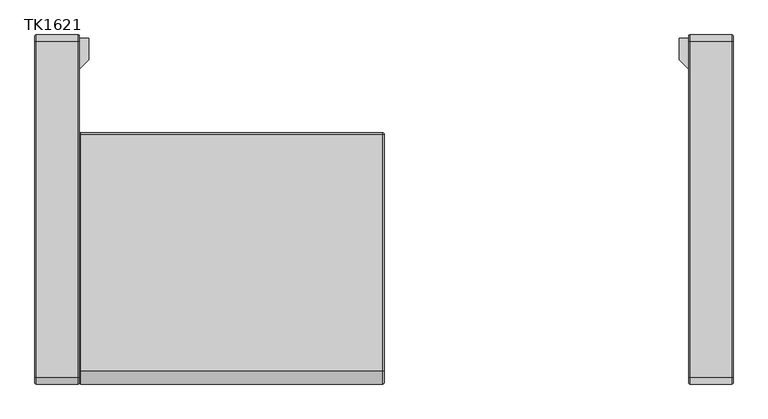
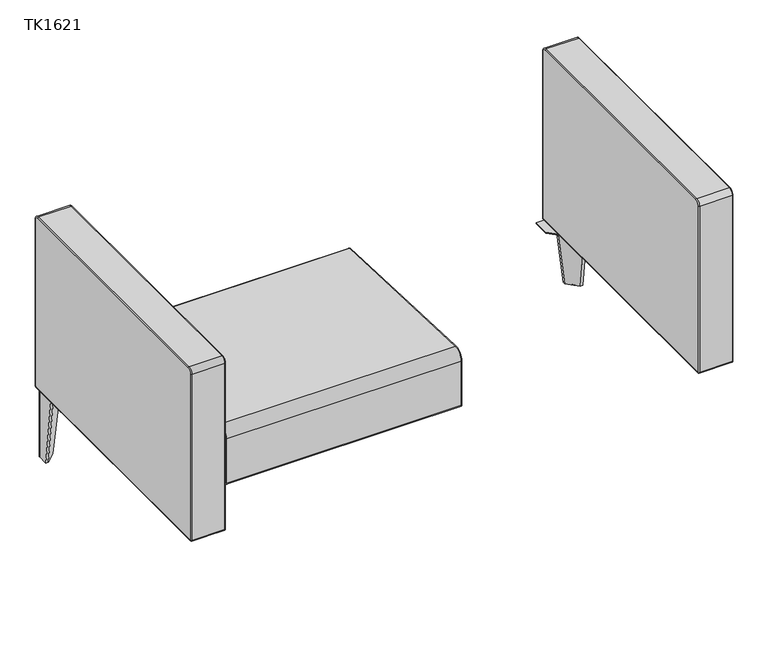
"""IFC4 building model written with IfcOpenShell, lengths in millimetres: furniture geometry, JSI-Teekan-Two_Seat_Lounge : TK1621."""

from ifc_helpers import new_model, si_unit, point, frame, origin, place, context, project, spatial, polyline, circle_curve, ellipse_curve, trimmed, outline, extrude, source, transform, mapped, element, save
from ifc_brep_helpers import plane_surface, cylinder_surface, revolved_surface, spline_surface, advanced_brep


def tk1621_4f83ef63(model_context):
    return source(origin(), model_context, "Body", "SolidModel", [
        advanced_brep(
        [(682.1513333, 340.133006, 3.1926572), (682.1513333, 340.133006, 4.9994321), (682.1513333, 325.6863843, 4.9994321), (682.1513333, 325.6863843, 3.1926572), (682.1513333, 336.9403488, 0.0), (682.1513333, 328.8790415, 0.0), (682.1513333, 332.9096951, 0.0), (682.1513333, 332.9096951, 4.9994321)],
        [
            (0, 1),
            (1, 2, circle_curve(frame((682.1513333, 332.9096951, 4.9994321), z_axis=(0.0, 0.0, -1.0), x_axis=(0.0, -1.0, 0.0)), 7.2233108)),
            (2, 3),
            (3, 0, circle_curve(frame((682.1513333, 332.9096951, 3.1926572), z_axis=(0.0, 0.0, 1.0), x_axis=(0.0, -1.0, 0.0)), 7.2233108)),
            (2, 1, circle_curve(frame((682.1513333, 332.9096951, 4.9994321), z_axis=(0.0, 0.0, -1.0), x_axis=(0.0, -1.0, 0.0)), 7.2233108)),
            (0, 3, circle_curve(frame((682.1513333, 332.9096951, 3.1926572), z_axis=(0.0, 0.0, 1.0), x_axis=(0.0, -1.0, 0.0)), 7.2233108)),
            (4, 0, circle_curve(frame((682.1513333, 336.9403488, 3.1926572), z_axis=(1.0, 0.0, 0.0), x_axis=(0.0, 1.0, 0.0)), 3.1926572)),
            (3, 5, circle_curve(frame((682.1513333, 328.8790415, 3.1926572), z_axis=(1.0, 0.0, 0.0), x_axis=(0.0, -1.0, 0.0)), 3.1926572)),
            (5, 4, circle_curve(frame((682.1513333, 332.9096951, 0.0), z_axis=(0.0, 0.0, 1.0), x_axis=(0.0, -1.0, 0.0)), 4.0306536)),
            (4, 5, circle_curve(frame((682.1513333, 332.9096951, 0.0), z_axis=(0.0, 0.0, 1.0), x_axis=(0.0, -1.0, 0.0)), 4.0306536)),
            (6, 4),
            (5, 6),
            (1, 7),
            (7, 2),
        ],
        [
            cylinder_surface(frame((682.1513333, 332.9096951, 14.2077797), z_axis=(0.0, 0.0, -1.0), x_axis=(0.0, -1.0, 0.0)), 7.2233108),
            revolved_surface(trimmed(ellipse_curve(frame((682.1513333, 328.8790415, 3.1926572), z_axis=(1.0, 0.0, 0.0), x_axis=(0.0, -1.0, 0.0)), 3.1926572, 3.1926572), [point((682.1513333, 325.6863843, 3.1926572))], [point((682.1513333, 328.8790415, 0.0))], True, "CARTESIAN"), (682.1513333, 332.9096951, 14.2077797), (0.0, 0.0, -1.0)),
            plane_surface(frame((682.1513333, 332.9096951, 0.0), z_axis=(0.0, 0.0, -1.0), x_axis=(0.0, -1.0, 0.0))),
            plane_surface(frame((682.1513333, 332.9096951, 4.9994321), z_axis=(0.0, 0.0, 1.0), x_axis=(0.0, -1.0, 0.0))),
        ],
        [
            (0, [[1, 2, 3, 4]]),
            (0, [[-3, 5, -1, 6]]),
            (1, [[7, -4, 8, 9]]),
            (1, [[-8, -6, -7, 10]]),
            (2, [[11, -9, 12]]),
            (2, [[-12, -10, -11]]),
            (3, [[13, 14, -2]]),
            (3, [[-14, -13, -5]]),
        ],
    ),
        advanced_brep(
        [(638.175, 336.5496631, 189.4817329), (685.8, 288.9246631, 189.4817329), (692.15, 288.9246631, 189.4817329), (692.15, 339.725, 189.4817329), (688.975, 342.9, 189.4817329), (638.175, 342.9, 189.4817329), (660.4, 336.5496631, 4.9994321), (660.4, 342.9, 4.9994321), (688.9469923, 342.9, 4.9994321), (692.15, 339.6969923, 4.9994321), (692.15, 311.1496631, 4.9994321), (685.8, 311.1496631, 4.9994321)],
        [
            (0, 1),
            (1, 2),
            (2, 3),
            (3, 4, circle_curve(frame((688.975, 339.725, 189.4817329), z_axis=(0.0, 0.0, 1.0), x_axis=(-1.0, 0.0, 0.0)), 3.175)),
            (4, 5),
            (5, 0),
            (6, 7),
            (7, 8),
            (8, 9, circle_curve(frame((688.9469923, 339.6969923, 4.9994321), z_axis=(0.0, 0.0, -1.0), x_axis=(-1.0, 0.0, 0.0)), 3.2030077)),
            (9, 10),
            (10, 11),
            (11, 6),
            (6, 0),
            (5, 7),
            (4, 8),
            (3, 9),
            (2, 10),
            (1, 11),
        ],
        [
            plane_surface(frame((672.5708333, 323.3206649, 189.4817329), z_axis=(0.0, 0.0, 1.0), x_axis=(-1.0, 0.0, 0.0))),
            plane_surface(frame((679.9744987, 330.7243303, 4.9994321), z_axis=(0.0, 0.0, -1.0), x_axis=(-1.0, 0.0, 0.0))),
            plane_surface(frame((660.4, 339.7248316, 4.9994321), z_axis=(-0.9928212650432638, 0.0, -0.11960742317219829), x_axis=(0.0, 1.0, 0.0))),
            plane_surface(frame((674.6734961, 342.9, 4.9994321), z_axis=(0.0, 1.0, 0.0), x_axis=(1.0, 0.0, 0.0))),
            spline_surface(1, 2, [[(688.9469923, 342.9, 4.9994321), (692.1500000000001, 342.90000000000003, 4.9994321), (692.15, 339.6969923, 4.9994321)], [(688.975, 342.9, 189.4817329), (692.15, 342.90000000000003, 189.4817329), (692.15, 339.725, 189.4817329)]], [2, 2], [3, 3], [0.0, 1.0], [0.0, 1.0], weights=[[1.0, 0.7071067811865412, 1.0], [1.0, 0.7071067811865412, 1.0]]),
            plane_surface(frame((692.15, 325.4233277, 4.9994321), z_axis=(1.0, 0.0, 0.0), x_axis=(0.0, -1.0, 0.0))),
            plane_surface(frame((688.975, 311.1496631, 4.9994321), z_axis=(0.0, -0.992821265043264, -0.11960742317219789), x_axis=(-1.0, 0.0, 0.0))),
            plane_surface(frame((673.1, 323.8496631, 4.9994321), z_axis=(-0.7045550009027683, -0.7045550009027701, -0.08487933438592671), x_axis=(-0.7071067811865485, 0.7071067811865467, 0.0))),
        ],
        [
            (0, [[1, 2, 3, 4, 5, 6]]),
            (1, [[7, 8, 9, 10, 11, 12]]),
            (2, [[13, -6, 14, -7]]),
            (3, [[-14, -5, 15, -8]]),
            (4, [[-15, -4, 16, -9]]),
            (5, [[-16, -3, 17, -10]]),
            (6, [[-17, -2, 18, -11]]),
            (7, [[-18, -1, -13, -12]]),
        ],
    ),
        extrude(outline(polyline([(590.55, 342.9), (692.15, 342.9), (692.15, 241.3), (649.2875, 241.3), (590.55, 300.0375), (590.55, 342.9)])), frame((0.0, 0.0, 189.4817329), z_axis=(0.0, 0.0, 1.0), x_axis=(1.0, 0.0, 0.0)), (0.0, 0.0, 1.0), 3.175),
        advanced_brep(
        [(-682.1513333, 340.133006, 3.1926572), (-682.1513333, 325.6863843, 3.1926572), (-682.1513333, 325.6863843, 4.9994321), (-682.1513333, 340.133006, 4.9994321), (-682.1513333, 336.9403488, 0.0), (-682.1513333, 328.8790415, 0.0), (-682.1513333, 332.9096951, 0.0), (-682.1513333, 332.9096951, 4.9994321)],
        [
            (0, 1, circle_curve(frame((-682.1513333, 332.9096951, 3.1926572), z_axis=(0.0, 0.0, 1.0), x_axis=(0.0, -1.0, 0.0)), 7.2233108)),
            (1, 2),
            (2, 3, circle_curve(frame((-682.1513333, 332.9096951, 4.9994321), z_axis=(0.0, 0.0, -1.0), x_axis=(0.0, -1.0, 0.0)), 7.2233108)),
            (3, 0),
            (1, 0, circle_curve(frame((-682.1513333, 332.9096951, 3.1926572), z_axis=(0.0, 0.0, 1.0), x_axis=(0.0, -1.0, 0.0)), 7.2233108)),
            (3, 2, circle_curve(frame((-682.1513333, 332.9096951, 4.9994321), z_axis=(0.0, 0.0, -1.0), x_axis=(0.0, -1.0, 0.0)), 7.2233108)),
            (4, 5, circle_curve(frame((-682.1513333, 332.9096951, 0.0), z_axis=(0.0, 0.0, 1.0), x_axis=(0.0, -1.0, 0.0)), 4.0306536)),
            (5, 1, circle_curve(frame((-682.1513333, 328.8790415, 3.1926572), z_axis=(-1.0, 0.0, 0.0), x_axis=(0.0, -1.0, 0.0)), 3.1926572)),
            (0, 4, circle_curve(frame((-682.1513333, 336.9403488, 3.1926572), z_axis=(-1.0, 0.0, 0.0), x_axis=(0.0, 1.0, 0.0)), 3.1926572)),
            (5, 4, circle_curve(frame((-682.1513333, 332.9096951, 0.0), z_axis=(0.0, 0.0, 1.0), x_axis=(0.0, -1.0, 0.0)), 4.0306536)),
            (6, 5),
            (4, 6),
            (2, 7),
            (7, 3),
        ],
        [
            cylinder_surface(frame((-682.1513333, 332.9096951, 14.2077797), z_axis=(0.0, 0.0, -1.0), x_axis=(0.0, -1.0, 0.0)), 7.2233108),
            revolved_surface(trimmed(ellipse_curve(frame((-682.1513333, 328.8790415, 3.1926572), z_axis=(1.0, 0.0, 0.0), x_axis=(0.0, -1.0, 0.0)), 3.1926572, 3.1926572), [point((-682.1513333, 325.6863843, 3.1926572))], [point((-682.1513333, 328.8790415, 0.0))], True, "CARTESIAN"), (-682.1513333, 332.9096951, 14.2077797), (0.0, 0.0, -1.0)),
            plane_surface(frame((-682.1513333, 332.9096951, 0.0), z_axis=(0.0, 0.0, -1.0), x_axis=(0.0, -1.0, 0.0))),
            plane_surface(frame((-682.1513333, 332.9096951, 4.9994321), z_axis=(0.0, 0.0, 1.0), x_axis=(0.0, -1.0, 0.0))),
        ],
        [
            (0, [[1, 2, 3, 4]]),
            (0, [[5, -4, 6, -2]]),
            (1, [[7, 8, -1, 9]]),
            (1, [[10, -9, -5, -8]]),
            (2, [[11, -7, 12]]),
            (2, [[-12, -10, -11]]),
            (3, [[-3, 13, 14]]),
            (3, [[-6, -14, -13]]),
        ],
    ),
        advanced_brep(
        [(-638.175, 336.5496631, 189.4817329), (-638.175, 342.9, 189.4817329), (-688.975, 342.9, 189.4817329), (-692.15, 339.725, 189.4817329), (-692.15, 288.9246631, 189.4817329), (-685.8, 288.9246631, 189.4817329), (-660.4, 336.5496631, 4.9994321), (-685.8, 311.1496631, 4.9994321), (-692.15, 311.1496631, 4.9994321), (-692.15, 339.6969923, 4.9994321), (-688.9469923, 342.9, 4.9994321), (-660.4, 342.9, 4.9994321)],
        [
            (0, 1),
            (1, 2),
            (2, 3, circle_curve(frame((-688.975, 339.725, 189.4817329), z_axis=(0.0, 0.0, 1.0), x_axis=(1.0, 0.0, 0.0)), 3.175)),
            (3, 4),
            (4, 5),
            (5, 0),
            (6, 7),
            (7, 8),
            (8, 9),
            (9, 10, circle_curve(frame((-688.9469923, 339.6969923, 4.9994321), z_axis=(0.0, 0.0, -1.0), x_axis=(1.0, 0.0, 0.0)), 3.2030077)),
            (10, 11),
            (11, 6),
            (11, 1),
            (0, 6),
            (10, 2),
            (9, 3),
            (8, 4),
            (7, 5),
        ],
        [
            plane_surface(frame((-672.5708333, 323.3206649, 189.4817329), z_axis=(0.0, 0.0, 1.0), x_axis=(1.0, 0.0, 0.0))),
            plane_surface(frame((-679.9744987, 330.7243303, 4.9994321), z_axis=(0.0, 0.0, -1.0), x_axis=(1.0, 0.0, 0.0))),
            plane_surface(frame((-660.4, 339.7248316, 4.9994321), z_axis=(0.9928212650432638, 0.0, -0.11960742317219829), x_axis=(0.0, 1.0, 0.0))),
            plane_surface(frame((-674.6734961, 342.9, 4.9994321), z_axis=(0.0, 1.0, 0.0), x_axis=(-1.0, 0.0, 0.0))),
            spline_surface(2, 1, [[(-688.9469923, 342.9, 4.9994321), (-688.975, 342.9, 189.4817329)], [(-692.1500000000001, 342.90000000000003, 4.9994321), (-692.15, 342.90000000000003, 189.4817329)], [(-692.15, 339.6969923, 4.9994321), (-692.15, 339.725, 189.4817329)]], [3, 3], [2, 2], [0.0, 1.0], [0.0, 1.0], weights=[[1.0, 1.0], [0.7071067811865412, 0.7071067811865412], [1.0, 1.0]]),
            plane_surface(frame((-692.15, 325.4233277, 4.9994321), z_axis=(-1.0, 0.0, 0.0), x_axis=(0.0, -1.0, 0.0))),
            plane_surface(frame((-688.975, 311.1496631, 4.9994321), z_axis=(0.0, -0.992821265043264, -0.11960742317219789), x_axis=(1.0, 0.0, 0.0))),
            plane_surface(frame((-673.1, 323.8496631, 4.9994321), z_axis=(0.7045550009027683, -0.7045550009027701, -0.08487933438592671), x_axis=(0.7071067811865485, 0.7071067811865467, 0.0))),
        ],
        [
            (0, [[1, 2, 3, 4, 5, 6]]),
            (1, [[7, 8, 9, 10, 11, 12]]),
            (2, [[-12, 13, -1, 14]]),
            (3, [[-11, 15, -2, -13]]),
            (4, [[-10, 16, -3, -15]]),
            (5, [[-9, 17, -4, -16]]),
            (6, [[-8, 18, -5, -17]]),
            (7, [[-7, -14, -6, -18]]),
        ],
    ),
        extrude(outline(polyline([(-590.55, 342.9), (-590.55, 300.0375), (-649.2875, 241.3), (-692.15, 241.3), (-692.15, 342.9), (-590.55, 342.9)])), frame((0.0, 0.0, 189.4817329), z_axis=(0.0, 0.0, 1.0), x_axis=(1.0, 0.0, 0.0)), (0.0, 0.0, 1.0), 3.175),
        advanced_brep(
        [(-611.98125, -349.2253956, 649.9721851), (-609.6, -346.8441456, 649.9721851), (-609.6, -336.5253956, 660.2909351), (-611.98125, -336.5253956, 662.6721851), (-696.11875, -336.5253956, 662.6721851), (-696.11875, -349.2253956, 649.9721851), (-698.5, -336.5253956, 660.2909351), (-698.5, -346.8441456, 649.9721851), (-611.98125, -349.2253956, 197.5346851), (-609.6, -346.8441456, 197.5346851), (-696.11875, -349.2253956, 197.5346851), (-698.5, -346.8441456, 197.5346851), (-611.98125, -344.4628956, 192.7721851), (-609.6, -344.4628956, 195.1534351), (-696.11875, -344.4628956, 192.7721851), (-698.5, -344.4628956, 195.1534351), (-611.98125, 344.5121044, 192.7721851), (-609.6, 344.5121044, 195.1534351), (-696.11875, 344.5121044, 192.7721851), (-698.5, 344.5121044, 195.1534351), (-611.98125, 349.2746044, 197.5346851), (-609.6, 346.8933544, 197.5346851), (-696.11875, 349.2746044, 197.5346851), (-698.5, 346.8933544, 197.5346851), (-611.98125, 349.2746044, 649.9721851), (-609.6, 346.8933544, 649.9721851), (-696.11875, 349.2746044, 649.9721851), (-698.5, 346.8933544, 649.9721851), (-611.98125, 336.5746044, 662.6721851), (-609.6, 336.5746044, 660.2909351), (-696.11875, 336.5746044, 662.6721851), (-698.5, 336.5746044, 660.2909351)],
        [
            (0, 1, circle_curve(frame((-611.98125, -346.8441456, 649.9721851), z_axis=(0.0, 0.0, 1.0), x_axis=(-1.0, 0.0, 0.0)), 2.38125)),
            (1, 2, circle_curve(frame((-609.6, -336.5253956, 649.9721851), z_axis=(-1.0, 0.0, 0.0), x_axis=(0.0, 0.0, 1.0)), 10.31875)),
            (2, 3, circle_curve(frame((-611.98125, -336.5253956, 660.2909351), z_axis=(0.0, -1.0, 0.0), x_axis=(-1.0, 0.0, 0.0)), 2.38125)),
            (3, 0, circle_curve(frame((-611.98125, -336.5253956, 649.9721851), z_axis=(1.0, 0.0, 0.0), x_axis=(0.0, 0.0, 1.0)), 12.7)),
            (3, 4),
            (4, 5, circle_curve(frame((-696.11875, -336.5253956, 649.9721851), z_axis=(1.0, 0.0, 0.0), x_axis=(0.0, 0.0, 1.0)), 12.7)),
            (5, 0),
            (4, 6, circle_curve(frame((-696.11875, -336.5253956, 660.2909351), z_axis=(0.0, -1.0, 0.0), x_axis=(-1.0, 0.0, 0.0)), 2.38125)),
            (6, 7, circle_curve(frame((-698.5, -336.5253956, 649.9721851), z_axis=(1.0, 0.0, 0.0), x_axis=(0.0, 0.0, 1.0)), 10.31875)),
            (7, 5, circle_curve(frame((-696.11875, -346.8441456, 649.9721851), z_axis=(0.0, 0.0, 1.0), x_axis=(-1.0, 0.0, 0.0)), 2.38125)),
            (0, 8),
            (8, 9, circle_curve(frame((-611.98125, -346.8441456, 197.5346851), z_axis=(0.0, 0.0, 1.0), x_axis=(-1.0, 0.0, 0.0)), 2.38125)),
            (9, 1),
            (5, 10),
            (10, 8),
            (7, 11),
            (11, 10, circle_curve(frame((-696.11875, -346.8441456, 197.5346851), z_axis=(0.0, 0.0, 1.0), x_axis=(-1.0, 0.0, 0.0)), 2.38125)),
            (8, 12, circle_curve(frame((-611.98125, -344.4628956, 197.5346851), z_axis=(1.0, 0.0, 0.0), x_axis=(0.0, -1.0, 0.0)), 4.7625)),
            (12, 13, circle_curve(frame((-611.98125, -344.4628956, 195.1534351), z_axis=(0.0, -1.0, 0.0), x_axis=(-1.0, 0.0, 0.0)), 2.38125)),
            (13, 9, circle_curve(frame((-609.6, -344.4628956, 197.5346851), z_axis=(-1.0, 0.0, 0.0), x_axis=(0.0, -1.0, 0.0)), 2.38125)),
            (10, 14, circle_curve(frame((-696.11875, -344.4628956, 197.5346851), z_axis=(1.0, 0.0, 0.0), x_axis=(0.0, -1.0, 0.0)), 4.7625)),
            (14, 12),
            (11, 15, circle_curve(frame((-698.5, -344.4628956, 197.5346851), z_axis=(1.0, 0.0, 0.0), x_axis=(0.0, -1.0, 0.0)), 2.38125)),
            (15, 14, circle_curve(frame((-696.11875, -344.4628956, 195.1534351), z_axis=(0.0, -1.0, 0.0), x_axis=(-1.0, 0.0, 0.0)), 2.38125)),
            (12, 16),
            (16, 17, circle_curve(frame((-611.98125, 344.5121044, 195.1534351), z_axis=(0.0, -1.0, 0.0), x_axis=(-1.0, 0.0, 0.0)), 2.38125)),
            (17, 13),
            (14, 18),
            (18, 16),
            (15, 19),
            (19, 18, circle_curve(frame((-696.11875, 344.5121044, 195.1534351), z_axis=(0.0, -1.0, 0.0), x_axis=(-1.0, 0.0, 0.0)), 2.38125)),
            (16, 20, circle_curve(frame((-611.98125, 344.5121044, 197.5346851), z_axis=(1.0, 0.0, 0.0), x_axis=(0.0, 0.0, -1.0)), 4.7625)),
            (20, 21, circle_curve(frame((-611.98125, 346.8933544, 197.5346851), z_axis=(0.0, 0.0, -1.0), x_axis=(-1.0, 0.0, 0.0)), 2.38125)),
            (21, 17, circle_curve(frame((-609.6, 344.5121044, 197.5346851), z_axis=(-1.0, 0.0, 0.0), x_axis=(0.0, 0.0, -1.0)), 2.38125)),
            (18, 22, circle_curve(frame((-696.11875, 344.5121044, 197.5346851), z_axis=(1.0, 0.0, 0.0), x_axis=(0.0, 0.0, -1.0)), 4.7625)),
            (22, 20),
            (19, 23, circle_curve(frame((-698.5, 344.5121044, 197.5346851), z_axis=(1.0, 0.0, 0.0), x_axis=(0.0, 0.0, -1.0)), 2.38125)),
            (23, 22, circle_curve(frame((-696.11875, 346.8933544, 197.5346851), z_axis=(0.0, 0.0, -1.0), x_axis=(-1.0, 0.0, 0.0)), 2.38125)),
            (20, 24),
            (24, 25, circle_curve(frame((-611.98125, 346.8933544, 649.9721851), z_axis=(0.0, 0.0, -1.0), x_axis=(-1.0, 0.0, 0.0)), 2.38125)),
            (25, 21),
            (22, 26),
            (26, 24),
            (23, 27),
            (27, 26, circle_curve(frame((-696.11875, 346.8933544, 649.9721851), z_axis=(0.0, 0.0, -1.0), x_axis=(-1.0, 0.0, 0.0)), 2.38125)),
            (24, 28, circle_curve(frame((-611.98125, 336.5746044, 649.9721851), z_axis=(1.0, 0.0, 0.0), x_axis=(0.0, 1.0, 0.0)), 12.7)),
            (28, 29, circle_curve(frame((-611.98125, 336.5746044, 660.2909351), z_axis=(0.0, 1.0, 0.0), x_axis=(-1.0, 0.0, 0.0)), 2.38125)),
            (29, 25, circle_curve(frame((-609.6, 336.5746044, 649.9721851), z_axis=(-1.0, 0.0, 0.0), x_axis=(0.0, 1.0, 0.0)), 10.31875)),
            (26, 30, circle_curve(frame((-696.11875, 336.5746044, 649.9721851), z_axis=(1.0, 0.0, 0.0), x_axis=(0.0, 1.0, 0.0)), 12.7)),
            (30, 28),
            (27, 31, circle_curve(frame((-698.5, 336.5746044, 649.9721851), z_axis=(1.0, 0.0, 0.0), x_axis=(0.0, 1.0, 0.0)), 10.31875)),
            (31, 30, circle_curve(frame((-696.11875, 336.5746044, 660.2909351), z_axis=(0.0, 1.0, 0.0), x_axis=(-1.0, 0.0, 0.0)), 2.38125)),
            (29, 2),
            (28, 3),
            (30, 4),
            (31, 6),
        ],
        [
            revolved_surface(trimmed(ellipse_curve(frame((-611.98125, -336.5253956, 660.2909351), z_axis=(0.0, -1.0, 0.0), x_axis=(-1.0, 0.0, 0.0)), 2.38125, 2.38125), [point((-609.6, -336.5253956, 660.2909351))], [point((-611.98125, -336.5253956, 662.6721851))], True, "CARTESIAN"), (-698.5, -336.5253956, 649.9721851), (-1.0, 0.0, 0.0)),
            cylinder_surface(frame((-698.5, -336.5253956, 649.9721851), z_axis=(-1.0, 0.0, 0.0), x_axis=(0.0, 0.0, 1.0)), 12.7),
            revolved_surface(trimmed(ellipse_curve(frame((-696.11875, -336.5253956, 660.2909351), z_axis=(0.0, -1.0, 0.0), x_axis=(-1.0, 0.0, 0.0)), 2.38125, 2.38125), [point((-696.11875, -336.5253956, 662.6721851))], [point((-698.5, -336.5253956, 660.2909351))], True, "CARTESIAN"), (-698.5, -336.5253956, 649.9721851), (-1.0, 0.0, 0.0)),
            cylinder_surface(frame((-611.98125, -346.8441456, 649.9721851), z_axis=(0.0, 0.0, 1.0), x_axis=(-1.0, 0.0, 0.0)), 2.38125),
            plane_surface(frame((-611.98125, -349.2253956, 649.9721851), z_axis=(0.0, -1.0, 0.0), x_axis=(0.0, 0.0, -1.0))),
            cylinder_surface(frame((-696.11875, -346.8441456, 649.9721851), z_axis=(0.0, 0.0, 1.0), x_axis=(-1.0, 0.0, 0.0)), 2.38125),
            revolved_surface(trimmed(ellipse_curve(frame((-611.98125, -346.8441456, 197.5346851), z_axis=(0.0, 0.0, -1.0), x_axis=(-1.0, 0.0, 0.0)), 2.38125, 2.38125), [point((-609.6, -346.8441456, 197.5346851))], [point((-611.98125, -349.2253956, 197.5346851))], True, "CARTESIAN"), (-698.5, -344.4628956, 197.5346851), (-1.0, 0.0, 0.0)),
            cylinder_surface(frame((-698.5, -344.4628956, 197.5346851), z_axis=(-1.0, 0.0, 0.0), x_axis=(0.0, -1.0, 0.0)), 4.7625),
            revolved_surface(trimmed(ellipse_curve(frame((-696.11875, -346.8441456, 197.5346851), z_axis=(0.0, 0.0, -1.0), x_axis=(-1.0, 0.0, 0.0)), 2.38125, 2.38125), [point((-696.11875, -349.2253956, 197.5346851))], [point((-698.5, -346.8441456, 197.5346851))], True, "CARTESIAN"), (-698.5, -344.4628956, 197.5346851), (-1.0, 0.0, 0.0)),
            cylinder_surface(frame((-611.98125, -344.4628956, 195.1534351), z_axis=(0.0, -1.0, 0.0), x_axis=(-1.0, 0.0, 0.0)), 2.38125),
            plane_surface(frame((-611.98125, -344.4628956, 192.7721851), z_axis=(0.0, 0.0, -1.0), x_axis=(0.0, 1.0, 0.0))),
            cylinder_surface(frame((-696.11875, -344.4628956, 195.1534351), z_axis=(0.0, -1.0, 0.0), x_axis=(-1.0, 0.0, 0.0)), 2.38125),
            revolved_surface(trimmed(ellipse_curve(frame((-611.98125, 344.5121044, 195.1534351), z_axis=(0.0, 1.0, 0.0), x_axis=(-1.0, 0.0, 0.0)), 2.38125, 2.38125), [point((-609.6, 344.5121044, 195.1534351))], [point((-611.98125, 344.5121044, 192.7721851))], True, "CARTESIAN"), (-698.5, 344.5121044, 197.5346851), (-1.0, 0.0, 0.0)),
            cylinder_surface(frame((-698.5, 344.5121044, 197.5346851), z_axis=(-1.0, 0.0, 0.0), x_axis=(0.0, 0.0, -1.0)), 4.7625),
            revolved_surface(trimmed(ellipse_curve(frame((-696.11875, 344.5121044, 195.1534351), z_axis=(0.0, 1.0, 0.0), x_axis=(-1.0, 0.0, 0.0)), 2.38125, 2.38125), [point((-696.11875, 344.5121044, 192.7721851))], [point((-698.5, 344.5121044, 195.1534351))], True, "CARTESIAN"), (-698.5, 344.5121044, 197.5346851), (-1.0, 0.0, 0.0)),
            cylinder_surface(frame((-611.98125, 346.8933544, 197.5346851), z_axis=(0.0, 0.0, -1.0), x_axis=(-1.0, 0.0, 0.0)), 2.38125),
            plane_surface(frame((-611.98125, 349.2746044, 197.5346851), z_axis=(0.0, 1.0, 0.0), x_axis=(0.0, 0.0, 1.0))),
            cylinder_surface(frame((-696.11875, 346.8933544, 197.5346851), z_axis=(0.0, 0.0, -1.0), x_axis=(-1.0, 0.0, 0.0)), 2.38125),
            revolved_surface(trimmed(ellipse_curve(frame((-611.98125, 346.8933544, 649.9721851), z_axis=(0.0, 0.0, 1.0), x_axis=(-1.0, 0.0, 0.0)), 2.38125, 2.38125), [point((-609.6, 346.8933544, 649.9721851))], [point((-611.98125, 349.2746044, 649.9721851))], True, "CARTESIAN"), (-698.5, 336.5746044, 649.9721851), (-1.0, 0.0, 0.0)),
            cylinder_surface(frame((-698.5, 336.5746044, 649.9721851), z_axis=(-1.0, 0.0, 0.0), x_axis=(0.0, 1.0, 0.0)), 12.7),
            revolved_surface(trimmed(ellipse_curve(frame((-696.11875, 346.8933544, 649.9721851), z_axis=(0.0, 0.0, 1.0), x_axis=(-1.0, 0.0, 0.0)), 2.38125, 2.38125), [point((-696.11875, 349.2746044, 649.9721851))], [point((-698.5, 346.8933544, 649.9721851))], True, "CARTESIAN"), (-698.5, 336.5746044, 649.9721851), (-1.0, 0.0, 0.0)),
            plane_surface(frame((-609.6, 336.5746044, 658.7034351), z_axis=(1.0, 0.0, 0.0), x_axis=(0.0, -1.0, 0.0))),
            cylinder_surface(frame((-611.98125, 336.5746044, 660.2909351), z_axis=(0.0, 1.0, 0.0), x_axis=(-1.0, 0.0, 0.0)), 2.38125),
            plane_surface(frame((-611.98125, 336.5746044, 662.6721851), z_axis=(0.0, 0.0, 1.0), x_axis=(0.0, -1.0, 0.0))),
            cylinder_surface(frame((-696.11875, 336.5746044, 660.2909351), z_axis=(0.0, 1.0, 0.0), x_axis=(-1.0, 0.0, 0.0)), 2.38125),
            plane_surface(frame((-698.5, 336.5746044, 660.2909351), z_axis=(-1.0, 0.0, 0.0), x_axis=(0.0, -1.0, 0.0))),
        ],
        [
            (0, [[1, 2, 3, 4]]),
            (1, [[5, 6, 7, -4]]),
            (2, [[8, 9, 10, -6]]),
            (3, [[11, 12, 13, -1]]),
            (4, [[14, 15, -11, -7]]),
            (5, [[16, 17, -14, -10]]),
            (6, [[18, 19, 20, -12]]),
            (7, [[21, 22, -18, -15]]),
            (8, [[23, 24, -21, -17]]),
            (9, [[25, 26, 27, -19]]),
            (10, [[28, 29, -25, -22]]),
            (11, [[30, 31, -28, -24]]),
            (12, [[32, 33, 34, -26]]),
            (13, [[35, 36, -32, -29]]),
            (14, [[37, 38, -35, -31]]),
            (15, [[39, 40, 41, -33]]),
            (16, [[42, 43, -39, -36]]),
            (17, [[44, 45, -42, -38]]),
            (18, [[46, 47, 48, -40]]),
            (19, [[49, 50, -46, -43]]),
            (20, [[51, 52, -49, -45]]),
            (21, [[-13, -20, -27, -34, -41, -48, 53, -2]]),
            (22, [[-53, -47, 54, -3]]),
            (23, [[-54, -50, 55, -5]]),
            (24, [[-55, -52, 56, -8]]),
            (25, [[-56, -51, -44, -37, -30, -23, -16, -9]]),
        ],
    ),
        advanced_brep(
        [(611.98125, -349.2253956, 649.9721851), (611.98125, -336.5253956, 662.6721851), (609.6, -336.5253956, 660.2909351), (609.6, -346.8441456, 649.9721851), (696.11875, -349.2253956, 649.9721851), (696.11875, -336.5253956, 662.6721851), (698.5, -346.8441456, 649.9721851), (698.5, -336.5253956, 660.2909351), (609.6, -346.8441456, 197.5346851), (611.98125, -349.2253956, 197.5346851), (696.11875, -349.2253956, 197.5346851), (698.5, -346.8441456, 197.5346851), (609.6, -344.4628956, 195.1534351), (611.98125, -344.4628956, 192.7721851), (696.11875, -344.4628956, 192.7721851), (698.5, -344.4628956, 195.1534351), (609.6, 344.5121044, 195.1534351), (611.98125, 344.5121044, 192.7721851), (696.11875, 344.5121044, 192.7721851), (698.5, 344.5121044, 195.1534351), (609.6, 346.8933544, 197.5346851), (611.98125, 349.2746044, 197.5346851), (696.11875, 349.2746044, 197.5346851), (698.5, 346.8933544, 197.5346851), (609.6, 346.8933544, 649.9721851), (611.98125, 349.2746044, 649.9721851), (696.11875, 349.2746044, 649.9721851), (698.5, 346.8933544, 649.9721851), (609.6, 336.5746044, 660.2909351), (611.98125, 336.5746044, 662.6721851), (696.11875, 336.5746044, 662.6721851), (698.5, 336.5746044, 660.2909351)],
        [
            (0, 1, circle_curve(frame((611.98125, -336.5253956, 649.9721851), z_axis=(-1.0, 0.0, 0.0), x_axis=(0.0, 0.0, 1.0)), 12.7)),
            (1, 2, circle_curve(frame((611.98125, -336.5253956, 660.2909351), z_axis=(0.0, -1.0, 0.0), x_axis=(1.0, 0.0, 0.0)), 2.38125)),
            (2, 3, circle_curve(frame((609.6, -336.5253956, 649.9721851), z_axis=(1.0, 0.0, 0.0), x_axis=(0.0, 0.0, 1.0)), 10.31875)),
            (3, 0, circle_curve(frame((611.98125, -346.8441456, 649.9721851), z_axis=(0.0, 0.0, 1.0), x_axis=(1.0, 0.0, 0.0)), 2.38125)),
            (0, 4),
            (4, 5, circle_curve(frame((696.11875, -336.5253956, 649.9721851), z_axis=(-1.0, 0.0, 0.0), x_axis=(0.0, 0.0, 1.0)), 12.7)),
            (5, 1),
            (4, 6, circle_curve(frame((696.11875, -346.8441456, 649.9721851), z_axis=(0.0, 0.0, 1.0), x_axis=(1.0, 0.0, 0.0)), 2.38125)),
            (6, 7, circle_curve(frame((698.5, -336.5253956, 649.9721851), z_axis=(-1.0, 0.0, 0.0), x_axis=(0.0, 0.0, 1.0)), 10.31875)),
            (7, 5, circle_curve(frame((696.11875, -336.5253956, 660.2909351), z_axis=(0.0, -1.0, 0.0), x_axis=(1.0, 0.0, 0.0)), 2.38125)),
            (3, 8),
            (8, 9, circle_curve(frame((611.98125, -346.8441456, 197.5346851), z_axis=(0.0, 0.0, 1.0), x_axis=(1.0, 0.0, 0.0)), 2.38125)),
            (9, 0),
            (9, 10),
            (10, 4),
            (10, 11, circle_curve(frame((696.11875, -346.8441456, 197.5346851), z_axis=(0.0, 0.0, 1.0), x_axis=(1.0, 0.0, 0.0)), 2.38125)),
            (11, 6),
            (8, 12, circle_curve(frame((609.6, -344.4628956, 197.5346851), z_axis=(1.0, 0.0, 0.0), x_axis=(0.0, -1.0, 0.0)), 2.38125)),
            (12, 13, circle_curve(frame((611.98125, -344.4628956, 195.1534351), z_axis=(0.0, -1.0, 0.0), x_axis=(1.0, 0.0, 0.0)), 2.38125)),
            (13, 9, circle_curve(frame((611.98125, -344.4628956, 197.5346851), z_axis=(-1.0, 0.0, 0.0), x_axis=(0.0, -1.0, 0.0)), 4.7625)),
            (13, 14),
            (14, 10, circle_curve(frame((696.11875, -344.4628956, 197.5346851), z_axis=(-1.0, 0.0, 0.0), x_axis=(0.0, -1.0, 0.0)), 4.7625)),
            (14, 15, circle_curve(frame((696.11875, -344.4628956, 195.1534351), z_axis=(0.0, -1.0, 0.0), x_axis=(1.0, 0.0, 0.0)), 2.38125)),
            (15, 11, circle_curve(frame((698.5, -344.4628956, 197.5346851), z_axis=(-1.0, 0.0, 0.0), x_axis=(0.0, -1.0, 0.0)), 2.38125)),
            (12, 16),
            (16, 17, circle_curve(frame((611.98125, 344.5121044, 195.1534351), z_axis=(0.0, -1.0, 0.0), x_axis=(1.0, 0.0, 0.0)), 2.38125)),
            (17, 13),
            (17, 18),
            (18, 14),
            (18, 19, circle_curve(frame((696.11875, 344.5121044, 195.1534351), z_axis=(0.0, -1.0, 0.0), x_axis=(1.0, 0.0, 0.0)), 2.38125)),
            (19, 15),
            (16, 20, circle_curve(frame((609.6, 344.5121044, 197.5346851), z_axis=(1.0, 0.0, 0.0), x_axis=(0.0, 0.0, -1.0)), 2.38125)),
            (20, 21, circle_curve(frame((611.98125, 346.8933544, 197.5346851), z_axis=(0.0, 0.0, -1.0), x_axis=(1.0, 0.0, 0.0)), 2.38125)),
            (21, 17, circle_curve(frame((611.98125, 344.5121044, 197.5346851), z_axis=(-1.0, 0.0, 0.0), x_axis=(0.0, 0.0, -1.0)), 4.7625)),
            (21, 22),
            (22, 18, circle_curve(frame((696.11875, 344.5121044, 197.5346851), z_axis=(-1.0, 0.0, 0.0), x_axis=(0.0, 0.0, -1.0)), 4.7625)),
            (22, 23, circle_curve(frame((696.11875, 346.8933544, 197.5346851), z_axis=(0.0, 0.0, -1.0), x_axis=(1.0, 0.0, 0.0)), 2.38125)),
            (23, 19, circle_curve(frame((698.5, 344.5121044, 197.5346851), z_axis=(-1.0, 0.0, 0.0), x_axis=(0.0, 0.0, -1.0)), 2.38125)),
            (20, 24),
            (24, 25, circle_curve(frame((611.98125, 346.8933544, 649.9721851), z_axis=(0.0, 0.0, -1.0), x_axis=(1.0, 0.0, 0.0)), 2.38125)),
            (25, 21),
            (25, 26),
            (26, 22),
            (26, 27, circle_curve(frame((696.11875, 346.8933544, 649.9721851), z_axis=(0.0, 0.0, -1.0), x_axis=(1.0, 0.0, 0.0)), 2.38125)),
            (27, 23),
            (24, 28, circle_curve(frame((609.6, 336.5746044, 649.9721851), z_axis=(1.0, 0.0, 0.0), x_axis=(0.0, 1.0, 0.0)), 10.31875)),
            (28, 29, circle_curve(frame((611.98125, 336.5746044, 660.2909351), z_axis=(0.0, 1.0, 0.0), x_axis=(1.0, 0.0, 0.0)), 2.38125)),
            (29, 25, circle_curve(frame((611.98125, 336.5746044, 649.9721851), z_axis=(-1.0, 0.0, 0.0), x_axis=(0.0, 1.0, 0.0)), 12.7)),
            (29, 30),
            (30, 26, circle_curve(frame((696.11875, 336.5746044, 649.9721851), z_axis=(-1.0, 0.0, 0.0), x_axis=(0.0, 1.0, 0.0)), 12.7)),
            (30, 31, circle_curve(frame((696.11875, 336.5746044, 660.2909351), z_axis=(0.0, 1.0, 0.0), x_axis=(1.0, 0.0, 0.0)), 2.38125)),
            (31, 27, circle_curve(frame((698.5, 336.5746044, 649.9721851), z_axis=(-1.0, 0.0, 0.0), x_axis=(0.0, 1.0, 0.0)), 10.31875)),
            (2, 28),
            (1, 29),
            (5, 30),
            (7, 31),
        ],
        [
            revolved_surface(trimmed(ellipse_curve(frame((611.98125, -336.5253956, 660.2909351), z_axis=(0.0, 1.0, 0.0), x_axis=(1.0, 0.0, 0.0)), 2.38125, 2.38125), [point((609.6, -336.5253956, 660.2909351))], [point((611.98125, -336.5253956, 662.6721851))], True, "CARTESIAN"), (698.5, -336.5253956, 649.9721851), (1.0, 0.0, 0.0)),
            cylinder_surface(frame((698.5, -336.5253956, 649.9721851), z_axis=(1.0, 0.0, 0.0), x_axis=(0.0, 0.0, 1.0)), 12.7),
            revolved_surface(trimmed(ellipse_curve(frame((696.11875, -336.5253956, 660.2909351), z_axis=(0.0, 1.0, 0.0), x_axis=(1.0, 0.0, 0.0)), 2.38125, 2.38125), [point((696.11875, -336.5253956, 662.6721851))], [point((698.5, -336.5253956, 660.2909351))], True, "CARTESIAN"), (698.5, -336.5253956, 649.9721851), (1.0, 0.0, 0.0)),
            cylinder_surface(frame((611.98125, -346.8441456, 649.9721851), z_axis=(0.0, 0.0, 1.0), x_axis=(1.0, 0.0, 0.0)), 2.38125),
            plane_surface(frame((611.98125, -349.2253956, 649.9721851), z_axis=(0.0, -1.0, 0.0), x_axis=(0.0, 0.0, -1.0))),
            cylinder_surface(frame((696.11875, -346.8441456, 649.9721851), z_axis=(0.0, 0.0, 1.0), x_axis=(1.0, 0.0, 0.0)), 2.38125),
            revolved_surface(trimmed(ellipse_curve(frame((611.98125, -346.8441456, 197.5346851), z_axis=(0.0, 0.0, 1.0), x_axis=(1.0, 0.0, 0.0)), 2.38125, 2.38125), [point((609.6, -346.8441456, 197.5346851))], [point((611.98125, -349.2253956, 197.5346851))], True, "CARTESIAN"), (698.5, -344.4628956, 197.5346851), (1.0, 0.0, 0.0)),
            cylinder_surface(frame((698.5, -344.4628956, 197.5346851), z_axis=(1.0, 0.0, 0.0), x_axis=(0.0, -1.0, 0.0)), 4.7625),
            revolved_surface(trimmed(ellipse_curve(frame((696.11875, -346.8441456, 197.5346851), z_axis=(0.0, 0.0, 1.0), x_axis=(1.0, 0.0, 0.0)), 2.38125, 2.38125), [point((696.11875, -349.2253956, 197.5346851))], [point((698.5, -346.8441456, 197.5346851))], True, "CARTESIAN"), (698.5, -344.4628956, 197.5346851), (1.0, 0.0, 0.0)),
            cylinder_surface(frame((611.98125, -344.4628956, 195.1534351), z_axis=(0.0, -1.0, 0.0), x_axis=(1.0, 0.0, 0.0)), 2.38125),
            plane_surface(frame((611.98125, -344.4628956, 192.7721851), z_axis=(0.0, 0.0, -1.0), x_axis=(0.0, 1.0, 0.0))),
            cylinder_surface(frame((696.11875, -344.4628956, 195.1534351), z_axis=(0.0, -1.0, 0.0), x_axis=(1.0, 0.0, 0.0)), 2.38125),
            revolved_surface(trimmed(ellipse_curve(frame((611.98125, 344.5121044, 195.1534351), z_axis=(0.0, -1.0, 0.0), x_axis=(1.0, 0.0, 0.0)), 2.38125, 2.38125), [point((609.6, 344.5121044, 195.1534351))], [point((611.98125, 344.5121044, 192.7721851))], True, "CARTESIAN"), (698.5, 344.5121044, 197.5346851), (1.0, 0.0, 0.0)),
            cylinder_surface(frame((698.5, 344.5121044, 197.5346851), z_axis=(1.0, 0.0, 0.0), x_axis=(0.0, 0.0, -1.0)), 4.7625),
            revolved_surface(trimmed(ellipse_curve(frame((696.11875, 344.5121044, 195.1534351), z_axis=(0.0, -1.0, 0.0), x_axis=(1.0, 0.0, 0.0)), 2.38125, 2.38125), [point((696.11875, 344.5121044, 192.7721851))], [point((698.5, 344.5121044, 195.1534351))], True, "CARTESIAN"), (698.5, 344.5121044, 197.5346851), (1.0, 0.0, 0.0)),
            cylinder_surface(frame((611.98125, 346.8933544, 197.5346851), z_axis=(0.0, 0.0, -1.0), x_axis=(1.0, 0.0, 0.0)), 2.38125),
            plane_surface(frame((611.98125, 349.2746044, 197.5346851), z_axis=(0.0, 1.0, 0.0), x_axis=(0.0, 0.0, 1.0))),
            cylinder_surface(frame((696.11875, 346.8933544, 197.5346851), z_axis=(0.0, 0.0, -1.0), x_axis=(1.0, 0.0, 0.0)), 2.38125),
            revolved_surface(trimmed(ellipse_curve(frame((611.98125, 346.8933544, 649.9721851), z_axis=(0.0, 0.0, -1.0), x_axis=(1.0, 0.0, 0.0)), 2.38125, 2.38125), [point((609.6, 346.8933544, 649.9721851))], [point((611.98125, 349.2746044, 649.9721851))], True, "CARTESIAN"), (698.5, 336.5746044, 649.9721851), (1.0, 0.0, 0.0)),
            cylinder_surface(frame((698.5, 336.5746044, 649.9721851), z_axis=(1.0, 0.0, 0.0), x_axis=(0.0, 1.0, 0.0)), 12.7),
            revolved_surface(trimmed(ellipse_curve(frame((696.11875, 346.8933544, 649.9721851), z_axis=(0.0, 0.0, -1.0), x_axis=(1.0, 0.0, 0.0)), 2.38125, 2.38125), [point((696.11875, 349.2746044, 649.9721851))], [point((698.5, 346.8933544, 649.9721851))], True, "CARTESIAN"), (698.5, 336.5746044, 649.9721851), (1.0, 0.0, 0.0)),
            plane_surface(frame((609.6, 336.5746044, 658.7034351), z_axis=(-1.0, 0.0, 0.0), x_axis=(0.0, -1.0, 0.0))),
            cylinder_surface(frame((611.98125, 336.5746044, 660.2909351), z_axis=(0.0, 1.0, 0.0), x_axis=(1.0, 0.0, 0.0)), 2.38125),
            plane_surface(frame((611.98125, 336.5746044, 662.6721851), z_axis=(0.0, 0.0, 1.0), x_axis=(0.0, -1.0, 0.0))),
            cylinder_surface(frame((696.11875, 336.5746044, 660.2909351), z_axis=(0.0, 1.0, 0.0), x_axis=(1.0, 0.0, 0.0)), 2.38125),
            plane_surface(frame((698.5, 336.5746044, 660.2909351), z_axis=(1.0, 0.0, 0.0), x_axis=(0.0, -1.0, 0.0))),
        ],
        [
            (0, [[1, 2, 3, 4]]),
            (1, [[-1, 5, 6, 7]]),
            (2, [[-6, 8, 9, 10]]),
            (3, [[-4, 11, 12, 13]]),
            (4, [[-5, -13, 14, 15]]),
            (5, [[-8, -15, 16, 17]]),
            (6, [[-12, 18, 19, 20]]),
            (7, [[-14, -20, 21, 22]]),
            (8, [[-16, -22, 23, 24]]),
            (9, [[-19, 25, 26, 27]]),
            (10, [[-21, -27, 28, 29]]),
            (11, [[-23, -29, 30, 31]]),
            (12, [[-26, 32, 33, 34]]),
            (13, [[-28, -34, 35, 36]]),
            (14, [[-30, -36, 37, 38]]),
            (15, [[-33, 39, 40, 41]]),
            (16, [[-35, -41, 42, 43]]),
            (17, [[-37, -43, 44, 45]]),
            (18, [[-40, 46, 47, 48]]),
            (19, [[-42, -48, 49, 50]]),
            (20, [[-44, -50, 51, 52]]),
            (21, [[-3, 53, -46, -39, -32, -25, -18, -11]]),
            (22, [[-2, 54, -47, -53]]),
            (23, [[-7, 55, -49, -54]]),
            (24, [[-10, 56, -51, -55]]),
            (25, [[-9, -17, -24, -31, -38, -45, -52, -56]]),
        ],
    ),
        advanced_brep(
        [(-2.38125, 148.7693192, 295.6513391), (-2.38125, 153.733973, 300.4095468), (0.0, 151.352723, 300.4095468), (0.0, 148.8703961, 298.0304429), (-607.21875, 148.7693192, 295.6513391), (-607.21875, 153.733973, 300.4095468), (-609.6, 148.8703961, 298.0304429), (-609.6, 151.352723, 300.4095468), (0.0, -344.5512855, 318.9936072), (-2.38125, -344.6523625, 316.6145034), (-607.21875, -344.6523625, 316.6145034), (-609.6, -344.5512855, 318.9936072), (-2.38125, -322.7527962, 467.50355), (0.0, -322.8538731, 465.1244462), (0.0, 149.0725499, 445.0745142), (-2.38125, 149.1736269, 447.4536181), (-607.21875, 149.1736269, 447.4536181), (-607.21875, -322.7527962, 467.50355), (-609.6, 149.0725499, 445.0745142), (-609.6, -322.8538731, 465.1244462), (0.0, 151.352723, 442.6954104), (-2.38125, 153.733973, 442.6954104), (-607.21875, 153.733973, 442.6954104), (-609.6, 151.352723, 442.6954104), (0.0, -346.8497, 321.3917439), (-2.38125, -349.23095, 321.3917439), (-607.21875, -349.23095, 321.3917439), (-609.6, -346.8497, 321.3917439), (0.0, -346.8497, 442.1264425), (-2.38125, -349.23095, 442.1264425), (-607.21875, -349.23095, 442.1264425), (-609.6, -346.8497, 442.1264425)],
        [
            (0, 1, circle_curve(frame((-2.38125, 148.971473, 300.4095468), z_axis=(1.0, 0.0, 0.0), x_axis=(0.0, 1.0, 0.0)), 4.7625)),
            (1, 2, circle_curve(frame((-2.38125, 151.352723, 300.4095468), z_axis=(0.0, 0.0, -1.0), x_axis=(1.0, 0.0, 0.0)), 2.38125)),
            (2, 3, circle_curve(frame((0.0, 148.971473, 300.4095468), z_axis=(-1.0, 0.0, 0.0), x_axis=(0.0, 1.0, 0.0)), 2.38125)),
            (3, 0, circle_curve(frame((-2.38125, 148.8703961, 298.0304429), z_axis=(0.0, 0.9990987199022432, -0.04244700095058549), x_axis=(1.0, 0.0, 0.0)), 2.38125)),
            (0, 4),
            (4, 5, circle_curve(frame((-607.21875, 148.971473, 300.4095468), z_axis=(1.0, 0.0, 0.0), x_axis=(0.0, 1.0, 0.0)), 4.7625)),
            (5, 1),
            (4, 6, circle_curve(frame((-607.21875, 148.8703961, 298.0304429), z_axis=(0.0, 0.9990987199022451, -0.0424470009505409), x_axis=(1.0, 0.0, 0.0)), 2.38125)),
            (6, 7, circle_curve(frame((-609.6, 148.971473, 300.4095468), z_axis=(1.0, 0.0, 0.0), x_axis=(0.0, 1.0, 0.0)), 2.38125)),
            (7, 5, circle_curve(frame((-607.21875, 151.352723, 300.4095468), z_axis=(0.0, 0.0, -1.0), x_axis=(1.0, 0.0, 0.0)), 2.38125)),
            (3, 8),
            (8, 9, circle_curve(frame((-2.38125, -344.5512855, 318.9936072), z_axis=(0.0, 0.9990987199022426, -0.04244700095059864), x_axis=(1.0, 0.0, 0.0)), 2.38125)),
            (9, 0),
            (9, 10),
            (10, 4),
            (10, 11, circle_curve(frame((-607.21875, -344.5512855, 318.9936072), z_axis=(0.0, 0.9990987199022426, -0.04244700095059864), x_axis=(1.0, 0.0, 0.0)), 2.38125)),
            (11, 6),
            (12, 13, circle_curve(frame((-2.38125, -322.8538731, 465.1244462), z_axis=(0.0, 0.9990987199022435, -0.0424470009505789), x_axis=(1.0, 0.0, 0.0)), 2.38125)),
            (13, 14),
            (14, 15, circle_curve(frame((-2.38125, 149.0725499, 445.0745142), z_axis=(0.0, -0.9990987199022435, 0.0424470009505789), x_axis=(1.0, 0.0, 0.0)), 2.38125)),
            (15, 12),
            (15, 16),
            (16, 17),
            (17, 12),
            (16, 18, circle_curve(frame((-607.21875, 149.0725499, 445.0745142), z_axis=(0.0, -0.9990987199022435, 0.0424470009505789), x_axis=(1.0, 0.0, 0.0)), 2.38125)),
            (18, 19),
            (19, 17, circle_curve(frame((-607.21875, -322.8538731, 465.1244462), z_axis=(0.0, 0.9990987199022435, -0.0424470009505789), x_axis=(1.0, 0.0, 0.0)), 2.38125)),
            (14, 20, circle_curve(frame((0.0, 148.971473, 442.6954104), z_axis=(-1.0, 0.0, 0.0), x_axis=(0.0, 0.04244700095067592, 0.9990987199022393)), 2.38125)),
            (20, 21, circle_curve(frame((-2.38125, 151.352723, 442.6954104), z_axis=(0.0, 0.0, 0.9999999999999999), x_axis=(1.0, 0.0, 0.0)), 2.38125)),
            (21, 15, circle_curve(frame((-2.38125, 148.971473, 442.6954104), z_axis=(1.0, 0.0, 0.0), x_axis=(0.0, 0.04244700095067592, 0.9990987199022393)), 4.7625)),
            (21, 22),
            (22, 16, circle_curve(frame((-607.21875, 148.971473, 442.6954104), z_axis=(1.0, 0.0, 0.0), x_axis=(0.0, 0.04244700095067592, 0.9990987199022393)), 4.7625)),
            (22, 23, circle_curve(frame((-607.21875, 151.352723, 442.6954104), z_axis=(0.0, 0.0, 0.9999999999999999), x_axis=(1.0, 0.0, 0.0)), 2.38125)),
            (23, 18, circle_curve(frame((-609.6, 148.971473, 442.6954104), z_axis=(1.0, 0.0, 0.0), x_axis=(0.0, 0.04244700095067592, 0.9990987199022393)), 2.38125)),
            (1, 21),
            (20, 2),
            (5, 22),
            (7, 23),
            (8, 24, circle_curve(frame((0.0, -344.4494, 321.3917439), z_axis=(-1.0, 0.0, 0.0), x_axis=(0.0, -0.04244700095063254, -0.9990987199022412)), 2.4003)),
            (24, 25, circle_curve(frame((-2.38125, -346.8497, 321.3917439), z_axis=(0.0, 0.0, -1.0), x_axis=(1.0, 0.0, 0.0)), 2.38125)),
            (25, 9, circle_curve(frame((-2.38125, -344.4494, 321.3917439), z_axis=(1.0, 0.0, 0.0), x_axis=(0.0, -0.04244700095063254, -0.9990987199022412)), 4.78155)),
            (25, 26),
            (26, 10, circle_curve(frame((-607.21875, -344.4494, 321.3917439), z_axis=(1.0, 0.0, 0.0), x_axis=(0.0, -0.04244700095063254, -0.9990987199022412)), 4.78155)),
            (26, 27, circle_curve(frame((-607.21875, -346.8497, 321.3917439), z_axis=(0.0, 0.0, -1.0), x_axis=(1.0, 0.0, 0.0)), 2.38125)),
            (27, 11, circle_curve(frame((-609.6, -344.4494, 321.3917439), z_axis=(1.0, 0.0, 0.0), x_axis=(0.0, -0.04244700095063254, -0.9990987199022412)), 2.4003)),
            (24, 28),
            (28, 29, circle_curve(frame((-2.38125, -346.8497, 442.1264425), z_axis=(0.0, 0.0, -1.0), x_axis=(1.0, 0.0, 0.0)), 2.38125)),
            (29, 25),
            (29, 30),
            (30, 26),
            (30, 31, circle_curve(frame((-607.21875, -346.8497, 442.1264425), z_axis=(0.0, 0.0, -1.0), x_axis=(1.0, 0.0, 0.0)), 2.38125)),
            (31, 27),
            (13, 28, circle_curve(frame((0.0, -323.83095, 442.1264425), z_axis=(1.0, 0.0, 0.0), x_axis=(0.0, -1.0, 0.0)), 23.01875)),
            (12, 29, circle_curve(frame((-2.38125, -323.83095, 442.1264425), z_axis=(1.0, 0.0, 0.0), x_axis=(0.0, -1.0, 0.0)), 25.4)),
            (17, 30, circle_curve(frame((-607.21875, -323.83095, 442.1264425), z_axis=(1.0, 0.0, 0.0), x_axis=(0.0, -1.0, 0.0)), 25.4)),
            (19, 31, circle_curve(frame((-609.6, -323.83095, 442.1264425), z_axis=(1.0, 0.0, 0.0), x_axis=(0.0, -1.0, 0.0)), 23.01875)),
        ],
        [
            revolved_surface(trimmed(ellipse_curve(frame((-2.38125, 151.352723, 300.4095468), z_axis=(0.0, 0.0, 1.0), x_axis=(1.0, 0.0, 0.0)), 2.38125, 2.38125), [point((0.0, 151.352723, 300.4095468))], [point((-2.38125, 153.733973, 300.4095468))], True, "CARTESIAN"), (-304.8, 148.971473, 300.4095468), (-1.0, 0.0, 0.0)),
            cylinder_surface(frame((-304.8, 148.971473, 300.4095468), z_axis=(-1.0, 0.0, 0.0), x_axis=(0.0, 1.0, 0.0)), 4.7625),
            revolved_surface(trimmed(ellipse_curve(frame((-607.21875, 151.352723, 300.4095468), z_axis=(0.0, 0.0, 1.0), x_axis=(1.0, 0.0, 0.0)), 2.38125, 2.38125), [point((-607.21875, 153.733973, 300.4095468))], [point((-609.6, 151.352723, 300.4095468))], True, "CARTESIAN"), (-304.8, 148.971473, 300.4095468), (-1.0, 0.0, 0.0)),
            cylinder_surface(frame((-2.38125, 148.8703961, 298.0304429), z_axis=(0.0, 0.9990987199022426, -0.04244700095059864), x_axis=(1.0, 0.0, 0.0)), 2.38125),
            plane_surface(frame((-2.38125, 148.7693192, 295.6513391), z_axis=(0.0, -0.04244700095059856, -0.9990987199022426), x_axis=(0.0, -0.9990987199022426, 0.04244700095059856))),
            cylinder_surface(frame((-607.21875, 148.8703961, 298.0304429), z_axis=(0.0, 0.9990987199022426, -0.04244700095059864), x_axis=(1.0, 0.0, 0.0)), 2.38125),
            cylinder_surface(frame((-2.38125, -322.8538731, 465.1244462), z_axis=(0.0, -0.9990987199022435, 0.0424470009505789), x_axis=(1.0, 0.0, 0.0)), 2.38125),
            plane_surface(frame((-2.38125, -322.7527962, 467.50355), z_axis=(0.0, 0.04244700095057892, 0.9990987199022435), x_axis=(0.0, 0.9990987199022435, -0.04244700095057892))),
            cylinder_surface(frame((-607.21875, -322.8538731, 465.1244462), z_axis=(0.0, -0.9990987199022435, 0.0424470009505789), x_axis=(1.0, 0.0, 0.0)), 2.38125),
            revolved_surface(trimmed(ellipse_curve(frame((-2.38125, 149.0725499, 445.0745142), z_axis=(0.0, -0.9990987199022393, 0.04244700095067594), x_axis=(1.0, 0.0, 0.0)), 2.38125, 2.38125), [point((0.0, 149.0725499, 445.0745142))], [point((-2.38125, 149.1736269, 447.4536181))], True, "CARTESIAN"), (-304.8, 148.971473, 442.6954104), (-1.0, 0.0, 0.0)),
            cylinder_surface(frame((-304.8, 148.971473, 442.6954104), z_axis=(-1.0, 0.0, 0.0), x_axis=(0.0, 0.04244700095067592, 0.9990987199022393)), 4.7625),
            revolved_surface(trimmed(ellipse_curve(frame((-607.21875, 149.0725499, 445.0745142), z_axis=(0.0, -0.9990987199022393, 0.04244700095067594), x_axis=(1.0, 0.0, 0.0)), 2.38125, 2.38125), [point((-607.21875, 149.1736269, 447.4536181))], [point((-609.6, 149.0725499, 445.0745142))], True, "CARTESIAN"), (-304.8, 148.971473, 442.6954104), (-1.0, 0.0, 0.0)),
            cylinder_surface(frame((-2.38125, 151.352723, 442.6954104), z_axis=(0.0, 0.0, 1.0), x_axis=(1.0, 0.0, 0.0)), 2.38125),
            plane_surface(frame((-2.38125, 153.733973, 442.6954104), z_axis=(0.0, 1.0, 0.0), x_axis=(0.0, 0.0, -1.0))),
            cylinder_surface(frame((-607.21875, 151.352723, 442.6954104), z_axis=(0.0, 0.0, 1.0), x_axis=(1.0, 0.0, 0.0)), 2.38125),
            revolved_surface(trimmed(ellipse_curve(frame((-2.38125, -344.5512855, 318.9936072), z_axis=(0.0, 0.9990987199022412, -0.042447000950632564), x_axis=(1.0, 0.0, 0.0)), 2.38125, 2.38125), [point((0.0, -344.5512855, 318.9936072))], [point((-2.38125, -344.6523625, 316.6145034))], True, "CARTESIAN"), (-304.8, -344.4494, 321.3917439), (-1.0, 0.0, 0.0)),
            cylinder_surface(frame((-304.8, -344.4494, 321.3917439), z_axis=(-1.0, 0.0, 0.0), x_axis=(0.0, -0.04244700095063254, -0.9990987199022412)), 4.78155),
            revolved_surface(trimmed(ellipse_curve(frame((-607.21875, -344.5512855, 318.9936072), z_axis=(0.0, 0.9990987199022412, -0.042447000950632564), x_axis=(1.0, 0.0, 0.0)), 2.38125, 2.38125), [point((-607.21875, -344.6523625, 316.6145034))], [point((-609.6, -344.5512855, 318.9936072))], True, "CARTESIAN"), (-304.8, -344.4494, 321.3917439), (-1.0, 0.0, 0.0)),
            cylinder_surface(frame((-2.38125, -346.8497, 321.3917439), z_axis=(0.0, 0.0, -1.0), x_axis=(1.0, 0.0, 0.0)), 2.38125),
            plane_surface(frame((-2.38125, -349.23095, 321.3917439), z_axis=(0.0, -1.0, 0.0), x_axis=(0.0, 0.0, 1.0))),
            cylinder_surface(frame((-607.21875, -346.8497, 321.3917439), z_axis=(0.0, 0.0, -1.0), x_axis=(1.0, 0.0, 0.0)), 2.38125),
            plane_surface(frame((0.0, -323.83095, 442.1264425), z_axis=(1.0, 0.0, 0.0), x_axis=(0.0, -1.0, 0.0))),
            revolved_surface(trimmed(ellipse_curve(frame((-2.38125, -346.8497, 442.1264425), z_axis=(0.0, 0.0, -1.0), x_axis=(1.0, 0.0, 0.0)), 2.38125, 2.38125), [point((0.0, -346.8497, 442.1264425))], [point((-2.38125, -349.23095, 442.1264425))], True, "CARTESIAN"), (-304.8, -323.83095, 442.1264425), (-1.0, 0.0, 0.0)),
            cylinder_surface(frame((-304.8, -323.83095, 442.1264425), z_axis=(-1.0, 0.0, 0.0), x_axis=(0.0, -1.0, 0.0)), 25.4),
            revolved_surface(trimmed(ellipse_curve(frame((-607.21875, -346.8497, 442.1264425), z_axis=(0.0, 0.0, -1.0), x_axis=(1.0, 0.0, 0.0)), 2.38125, 2.38125), [point((-607.21875, -349.23095, 442.1264425))], [point((-609.6, -346.8497, 442.1264425))], True, "CARTESIAN"), (-304.8, -323.83095, 442.1264425), (-1.0, 0.0, 0.0)),
            plane_surface(frame((-609.6, -323.83095, 442.1264425), z_axis=(-1.0, 0.0, 0.0), x_axis=(0.0, -1.0, 0.0))),
        ],
        [
            (0, [[1, 2, 3, 4]]),
            (1, [[-1, 5, 6, 7]]),
            (2, [[-6, 8, 9, 10]]),
            (3, [[-4, 11, 12, 13]]),
            (4, [[-5, -13, 14, 15]]),
            (5, [[-8, -15, 16, 17]]),
            (6, [[18, 19, 20, 21]]),
            (7, [[-21, 22, 23, 24]]),
            (8, [[-23, 25, 26, 27]]),
            (9, [[-20, 28, 29, 30]]),
            (10, [[-22, -30, 31, 32]]),
            (11, [[-25, -32, 33, 34]]),
            (12, [[-2, 35, -29, 36]]),
            (13, [[-7, 37, -31, -35]]),
            (14, [[-10, 38, -33, -37]]),
            (15, [[-12, 39, 40, 41]]),
            (16, [[-14, -41, 42, 43]]),
            (17, [[-16, -43, 44, 45]]),
            (18, [[-40, 46, 47, 48]]),
            (19, [[-42, -48, 49, 50]]),
            (20, [[-44, -50, 51, 52]]),
            (21, [[-3, -36, -28, -19, 53, -46, -39, -11]]),
            (22, [[-18, 54, -47, -53]]),
            (23, [[-24, 55, -49, -54]]),
            (24, [[-27, 56, -51, -55]]),
            (25, [[-9, -17, -45, -52, -56, -26, -34, -38]]),
        ],
    ),
    ])


if __name__ == "__main__":
    model = new_model("IFC4")
    model_context = context("Model", 3, world=origin())
    ifc_project = project(units=[si_unit("LENGTHUNIT", "METRE", prefix="MILLI")], contexts=[model_context])
    site = spatial("IfcSite", under=ifc_project)
    building = spatial("IfcBuilding", under=site)
    placement = place(None, origin())
    tk1621_shape = tk1621_4f83ef63(model_context)
    element("IfcFurniture", 1, ObjectType="JSI-Teekan-Two_Seat_Lounge : TK1621", at=placement, inside=building, context=model_context, shape_type="MappedRepresentation", body=[
        mapped(tk1621_shape, transform((0.0, 0.0, 0.0), x_axis=(1.0, 0.0, 0.0), y_axis=(0.0, 1.0, 0.0), z_axis=(0.0, 0.0, 1.0))),
    ])
    save(model, "model.ifc")
